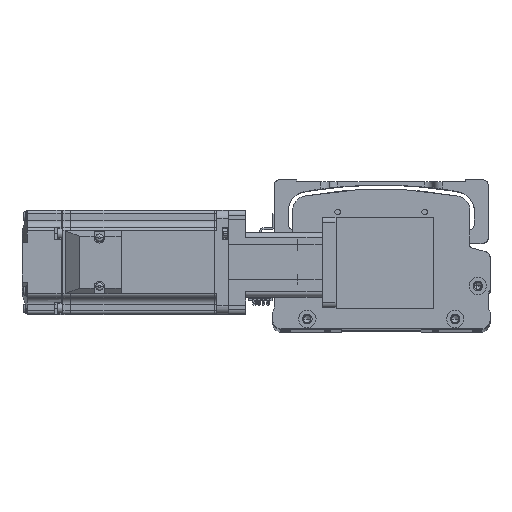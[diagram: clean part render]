
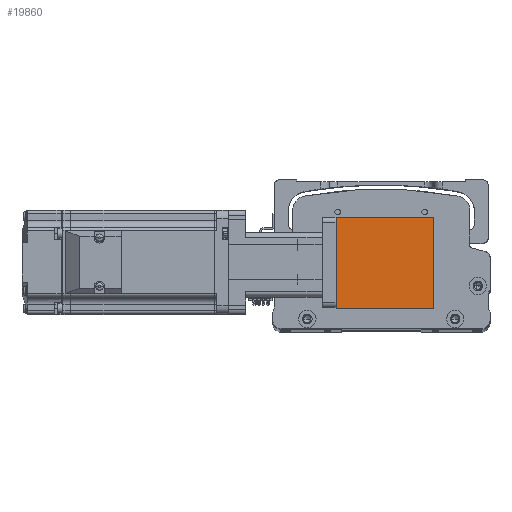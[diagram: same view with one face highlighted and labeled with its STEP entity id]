
A CAD part, top view. The second image highlights one B-rep face of the part: STEP entity #19860.
In plain terms, the highlighted planar face has unit normal (0, 0, 1) as drawn and (-1, 0, 0) by its records, which use the part's own axes.
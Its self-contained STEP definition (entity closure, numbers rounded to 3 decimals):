
#4815 = CARTESIAN_POINT ( 'NONE',  ( -31.5, -26., 56. ) ) ;
#5581 = VECTOR ( 'NONE', #38168, 1000. ) ;
#5662 = CARTESIAN_POINT ( 'NONE',  ( -31.5, 26., 56. ) ) ;
#7068 = LINE ( 'NONE', #47688, #5581 ) ;
#7534 = VERTEX_POINT ( 'NONE', #43965 ) ;
#8868 = DIRECTION ( 'NONE',  ( 0., 0., -1. ) ) ;
#11067 = ORIENTED_EDGE ( 'NONE', *, *, #17826, .F. ) ;
#11295 = VECTOR ( 'NONE', #49770, 1000. ) ;
#11351 = VECTOR ( 'NONE', #12677, 1000. ) ;
#11795 = EDGE_CURVE ( 'NONE', #44242, #37499, #50820, .T. ) ;
#11821 = CARTESIAN_POINT ( 'NONE',  ( -31.5, 26., 56. ) ) ;
#12677 = DIRECTION ( 'NONE',  ( 0., -1., 0. ) ) ;
#12792 = LINE ( 'NONE', #45706, #11351 ) ;
#13162 = VECTOR ( 'NONE', #21190, 1000. ) ;
#15243 = ORIENTED_EDGE ( 'NONE', *, *, #15247, .T. ) ;
#15247 = EDGE_CURVE ( 'NONE', #42699, #7534, #23865, .T. ) ;
#17826 = EDGE_CURVE ( 'NONE', #42699, #44242, #7068, .T. ) ;
#19668 = FACE_OUTER_BOUND ( 'NONE', #39619, .T. ) ;
#19860 = ADVANCED_FACE ( 'NONE', ( #19668 ), #27646, .F. ) ;
#21190 = DIRECTION ( 'NONE',  ( 0., 0., -1. ) ) ;
#21570 = EDGE_CURVE ( 'NONE', #7534, #37499, #12792, .T. ) ;
#23865 = LINE ( 'NONE', #11821, #11295 ) ;
#27646 = PLANE ( 'NONE',  #33389 ) ;
#27764 = CARTESIAN_POINT ( 'NONE',  ( -31.5, -26., 0. ) ) ;
#33389 = AXIS2_PLACEMENT_3D ( 'NONE', #51154, #37097, #8868 ) ;
#37097 = DIRECTION ( 'NONE',  ( 1., 0., 0. ) ) ;
#37360 = ORIENTED_EDGE ( 'NONE', *, *, #11795, .F. ) ;
#37499 = VERTEX_POINT ( 'NONE', #27764 ) ;
#38168 = DIRECTION ( 'NONE',  ( 0., -1., 0. ) ) ;
#39619 = EDGE_LOOP ( 'NONE', ( #56657, #37360, #11067, #15243 ) ) ;
#40130 = CARTESIAN_POINT ( 'NONE',  ( -31.5, -26., 56. ) ) ;
#42699 = VERTEX_POINT ( 'NONE', #5662 ) ;
#43965 = CARTESIAN_POINT ( 'NONE',  ( -31.5, 26., 0. ) ) ;
#44242 = VERTEX_POINT ( 'NONE', #4815 ) ;
#45706 = CARTESIAN_POINT ( 'NONE',  ( -31.5, -26., 0. ) ) ;
#47688 = CARTESIAN_POINT ( 'NONE',  ( -31.5, -26., 56. ) ) ;
#49770 = DIRECTION ( 'NONE',  ( 0., 0., -1. ) ) ;
#50820 = LINE ( 'NONE', #40130, #13162 ) ;
#51154 = CARTESIAN_POINT ( 'NONE',  ( -31.5, -26., 56. ) ) ;
#56657 = ORIENTED_EDGE ( 'NONE', *, *, #21570, .T. ) ;
